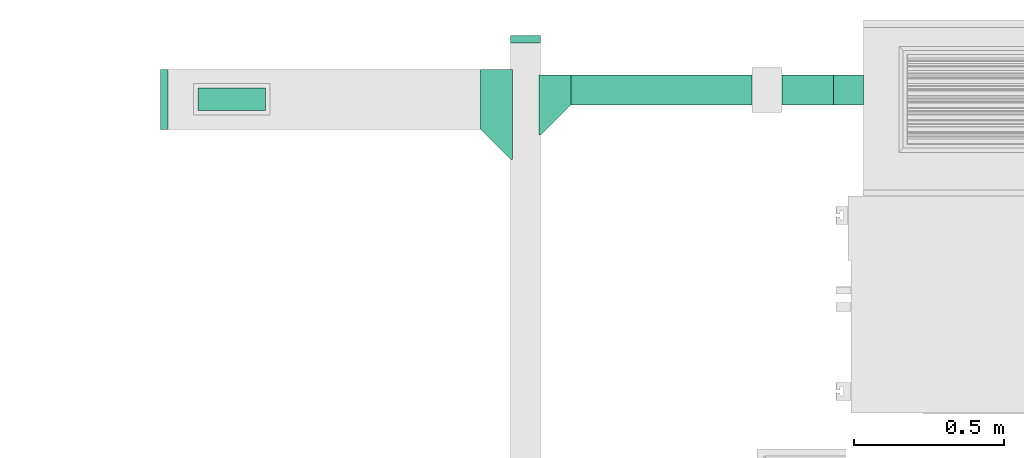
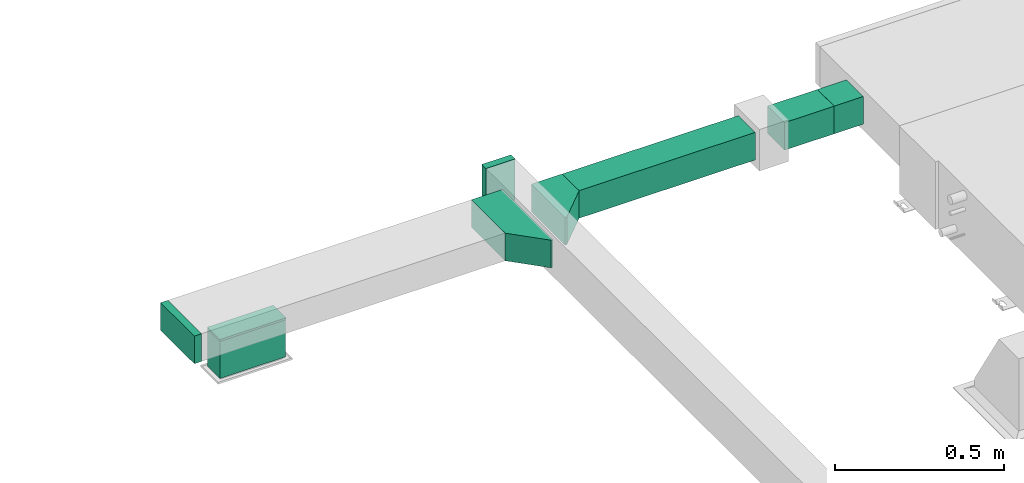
# One storey, part 14 of 22: 5 flow fittings, 3 flow segments, 1 flow terminal.
"""IFC2X3 building model written with IfcOpenShell, lengths in millimetres."""

from ifc_helpers import new_model, entity, si_unit, converted_unit, derived_unit, direction, frame, frame_2d, origin, origin_2d_with_axis, place, context, subcontext, project, spatial, polyline, rectangle, outline, extrude, source, transform, mapped, material, type_object, type_shapes, element, save


model = new_model("IFC2X3")

# Units and contexts
model_context = context("Model", 3, precision=0.01, world=origin(), true_north=direction((6.123233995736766e-17, 1.0)))
body_context = subcontext(model_context, "Body", "Model", "MODEL_VIEW")
ifc_project = project(units=[si_unit("LENGTHUNIT", "METRE", prefix="MILLI"), converted_unit("PLANEANGLEUNIT", "DEGREE", entity("IfcPlaneAngleMeasure", 0.017453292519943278), si_unit("PLANEANGLEUNIT", "RADIAN"), dimensions=[0, 0, 0, 0, 0, 0, 0]), si_unit("AREAUNIT", "SQUARE_METRE"), derived_unit("THERMALTRANSMITTANCEUNIT", [(si_unit("MASSUNIT", "GRAM", prefix="KILO"), 1), (si_unit("THERMODYNAMICTEMPERATUREUNIT", "KELVIN"), -1), (si_unit("TIMEUNIT", "SECOND"), -3)])], contexts=[model_context])

# Site, building, storey
site_placement = place(None, origin())
site = spatial("IfcSite", under=ifc_project, at=site_placement, Name="Default", CompositionType="ELEMENT")
building_placement = place(site_placement, origin())
building = spatial("IfcBuilding", under=site, at=building_placement, Name="Praça Pedro II, 1301 - Centro (Sul), Teresina - PI, 64001-100", CompositionType="ELEMENT")
storey_placement = place(building_placement, frame((0.0, 0.0, 320.0)))
storey = spatial("IfcBuildingStorey", under=building, at=storey_placement, Name="TÉRREO +0.32m", CompositionType="ELEMENT", Elevation=319.99999999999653)

# Flow segments
duct_segment_type = type_object("IfcDuctSegmentType", Name="Duto retangular:Raios cotovelos / torneiras", PredefinedType="NOTDEFINED")
flow_segment_1_placement = place(storey_placement, origin())
element("IfcFlowSegment", 1, at=flow_segment_1_placement, inside=storey, type_object=duct_segment_type, Name="Duto retangular:Raios cotovelos / torneiras", ObjectType="Duto retangular:Raios cotovelos / torneiras", context=body_context, shape_type="SweptSolid", body=[
    extrude(rectangle(XDim=170.5011279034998, YDim=100.00000000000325, at=frame_2d((0.0, -4.334310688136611e-12), x_axis=(1.0, 0.0))), frame((36636.377250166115, -51487.59413913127, 2175.0)), (0.0, 0.0, 1.0), 100.0),
])
flow_segment_2_placement = place(storey_placement, origin())
element("IfcFlowSegment", 2, at=flow_segment_2_placement, inside=storey, type_object=duct_segment_type, Name="Duto retangular:Raios cotovelos / torneiras", ObjectType="Duto retangular:Raios cotovelos / torneiras", context=body_context, shape_type="SweptSolid", body=[
    extrude(rectangle(XDim=603.2377125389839, YDim=100.00000000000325, at=origin_2d_with_axis()), frame((36149.50782994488, -51487.5941391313, 2175.0)), (0.0, 0.0, 1.0), 100.0),
])
flow_segment_3_placement = place(storey_placement, origin())
element("IfcFlowSegment", 3, at=flow_segment_3_placement, inside=storey, type_object=duct_segment_type, Name="Duto retangular:Raios cotovelos / torneiras", ObjectType="Duto retangular:Raios cotovelos / torneiras", context=body_context, shape_type="SweptSolid", body=[
    extrude(rectangle(XDim=75.00000000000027, YDim=225.00000000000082, at=origin_2d_with_axis()), frame((34719.23988453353, -51518.401490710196, 2040.0), z_axis=(0.0, 0.0, 1.0), x_axis=(0.0, 1.0, 0.0)), (0.0, 0.0, 1.0), 133.9999999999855),
])

# Flow fittings
ifc_material = material(Name="<Unnamed>")
duct_fitting_type_1 = type_object("IfcDuctFittingType", Name="M_Tampa retangular:Padrão", PredefinedType="NOTDEFINED", material=ifc_material)
shared_shape_1 = source(origin(), body_context, "Body", "SweptSolid", [
    extrude(rectangle(XDim=24.999999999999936, YDim=200.00000000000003, at=frame_2d((-8.881784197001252e-16, 0.0), x_axis=(1.0, 0.0))), frame((12.500000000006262, 0.0, -50.0)), (0.0, 0.0, 1.0), 100.0),
])
type_shapes(duct_fitting_type_1, [shared_shape_1])
flow_fitting_1_placement = place(storey_placement, frame((34507.88897367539, -51518.40149071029, 2225.0), z_axis=(0.0, 0.0, 1.0), x_axis=(-1.0, 0.0, 0.0)))
element("IfcFlowFitting", 4, at=flow_fitting_1_placement, inside=storey, type_object=duct_fitting_type_1, material=ifc_material, Name="M_Tampa retangular:Padrão", ObjectType="M_Tampa retangular:Padrão", context=body_context, shape_type="MappedRepresentation", body=[
    mapped(shared_shape_1, transform((0.0, 0.0, 0.0), scale=1.0)),
])
duct_fitting_type_2 = type_object("IfcDuctFittingType", Name="M_Tampa retangular:Padrão", PredefinedType="NOTDEFINED", material=ifc_material)
shared_shape_2 = source(origin(), body_context, "Body", "SweptSolid", [
    extrude(rectangle(XDim=24.999999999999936, YDim=100.0, at=origin_2d_with_axis()), frame((12.500000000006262, 0.0, -75.0)), (0.0, 0.0, 1.0), 150.0),
])
type_shapes(duct_fitting_type_2, [shared_shape_2])
flow_fitting_2_placement = place(storey_placement, frame((35697.88897367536, -51331.45818814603, 2225.0), z_axis=(0.0, 0.0, 1.0), x_axis=(0.0, 1.0, 0.0)))
element("IfcFlowFitting", 5, at=flow_fitting_2_placement, inside=storey, type_object=duct_fitting_type_2, material=ifc_material, Name="M_Tampa retangular:Padrão", ObjectType="M_Tampa retangular:Padrão", context=body_context, shape_type="MappedRepresentation", body=[
    mapped(shared_shape_2, transform((0.0, 0.0, 0.0), scale=1.0)),
])

# Flow terminal
air_terminal_type = type_object("IfcAirTerminalType", Name="grelha genérica:grelha genérica", PredefinedType="NOTDEFINED", material=ifc_material)
shared_shape_3 = source(origin(), body_context, "Body", "SweptSolid", [
    extrude(rectangle(XDim=100.0, YDim=100.00000000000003, at=origin_2d_with_axis()), frame((50.0, 0.0, -50.0), z_axis=(0.0, 0.0, 1.0), x_axis=(-1.0, 0.0, 0.0)), (0.0, 0.0, 1.0), 99.99999999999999),
])
type_shapes(air_terminal_type, [shared_shape_3])
flow_terminal_placement = place(storey_placement, frame((36821.62781411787, -51487.59413913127, 2225.0), z_axis=(0.0, 0.0, 1.0), x_axis=(-1.0, 0.0, 0.0)))
element("IfcFlowTerminal", 6, at=flow_terminal_placement, inside=storey, type_object=air_terminal_type, material=ifc_material, Name="grelha genérica:grelha genérica", ObjectType="grelha genérica:grelha genérica", context=body_context, shape_type="MappedRepresentation", body=[
    mapped(shared_shape_3, transform((0.0, 0.0, 0.0), scale=1.0)),
])

# Flow fittings
duct_fitting_type_3 = type_object("IfcDuctFittingType", Name="M_Rectangular Tap - Beveled:Standard", PredefinedType="NOTDEFINED", material=ifc_material)
shared_shape_4 = source(origin(), body_context, "Body", "SweptSolid", [
    extrude(outline(polyline([(-3.0383999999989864, -135.39999999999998), (4.057600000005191, -135.39999999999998), (4.057600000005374, 90.59999999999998), (-2.0383999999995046, 90.59999999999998), (-3.038399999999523, 89.60000000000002), (-3.0383999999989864, -135.39999999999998)])), frame((-2.0383999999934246, -22.90000000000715, -37.499999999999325), z_axis=(0.0, 0.0, 1.0), x_axis=(-1.0, 0.0, 0.0)), (0.0, 0.0, 1.0), 74.99999999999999),
])
type_shapes(duct_fitting_type_3, [shared_shape_4])
flow_fitting_3_placement = place(storey_placement, frame((34719.239884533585, -51518.40149071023, 2175.0), z_axis=(0.0, 1.0, 0.0), x_axis=(0.0, 0.0, -1.0)))
element("IfcFlowFitting", 7, at=flow_fitting_3_placement, inside=storey, type_object=duct_fitting_type_3, material=ifc_material, Name="M_Rectangular Tap - Beveled:Standard", ObjectType="M_Rectangular Tap - Beveled:Standard", context=body_context, shape_type="MappedRepresentation", body=[
    mapped(shared_shape_4, transform((0.0, 0.0, 0.0), scale=1.0)),
])
duct_fitting_type_4 = type_object("IfcDuctFittingType", Name="M_Rectangular Tap - Beveled:Standard", PredefinedType="NOTDEFINED", material=ifc_material)
shared_shape_5 = source(origin(), body_context, "Body", "SweptSolid", [
    extrude(outline(polyline([(-62.43839999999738, -160.0), (43.65760000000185, -160.0), (43.6576000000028, 140.0), (37.5616000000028, 140.0), (-62.43839999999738, 40.0), (-62.43839999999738, -160.0)])), frame((37.56160000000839, -60.0, -50.0), z_axis=(0.0, 0.0, 1.0), x_axis=(-1.0, 0.0, 0.0)), (0.0, 0.0, 1.0), 99.99999999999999),
])
type_shapes(duct_fitting_type_4, [shared_shape_5])
flow_fitting_4_placement = place(storey_placement, frame((35647.888973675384, -51518.401490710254, 2225.0), z_axis=(0.0, 0.0, -1.0), x_axis=(-1.0, 0.0, 0.0)))
element("IfcFlowFitting", 8, at=flow_fitting_4_placement, inside=storey, type_object=duct_fitting_type_4, material=ifc_material, Name="M_Rectangular Tap - Beveled:Standard", ObjectType="M_Rectangular Tap - Beveled:Standard", context=body_context, shape_type="MappedRepresentation", body=[
    mapped(shared_shape_5, transform((0.0, 0.0, 0.0), scale=1.0)),
])
duct_fitting_type_5 = type_object("IfcDuctFittingType", Name="M_Rectangular Tap - Beveled:Standard", PredefinedType="NOTDEFINED", material=ifc_material)
shared_shape_6 = source(origin(), body_context, "Body", "SweptSolid", [
    extrude(outline(polyline([(-100.0, -62.43839999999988), (0.0, -62.43839999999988), (100.0, 37.561599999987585), (100.0, 43.65760000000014), (-100.0, 43.6575999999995), (-100.0, -62.43839999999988)])), frame((37.56160000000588, 50.0, -50.0), z_axis=(0.0, 0.0, 1.0), x_axis=(0.0, 1.0, 0.0)), (0.0, 0.0, 1.0), 99.99999999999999),
])
type_shapes(duct_fitting_type_5, [shared_shape_6])
flow_fitting_5_placement = place(storey_placement, frame((35747.88897367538, -51487.5941391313, 2225.0), z_axis=(0.0, 0.0, -1.0), x_axis=(1.0, 0.0, 0.0)))
element("IfcFlowFitting", 9, at=flow_fitting_5_placement, inside=storey, type_object=duct_fitting_type_5, material=ifc_material, Name="M_Rectangular Tap - Beveled:Standard", ObjectType="M_Rectangular Tap - Beveled:Standard", context=body_context, shape_type="MappedRepresentation", body=[
    mapped(shared_shape_6, transform((0.0, 0.0, 0.0), scale=1.0)),
])

save(model, "model.ifc")
